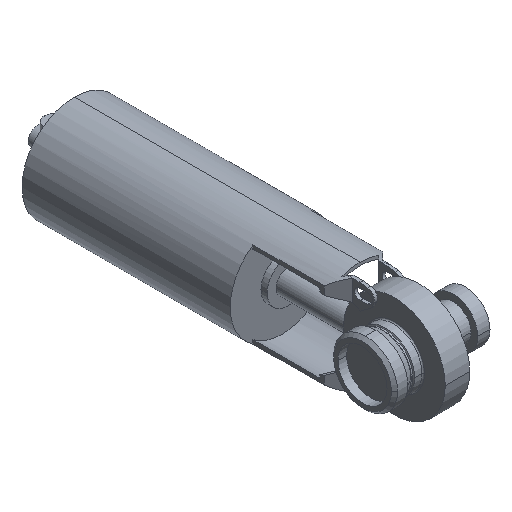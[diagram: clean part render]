
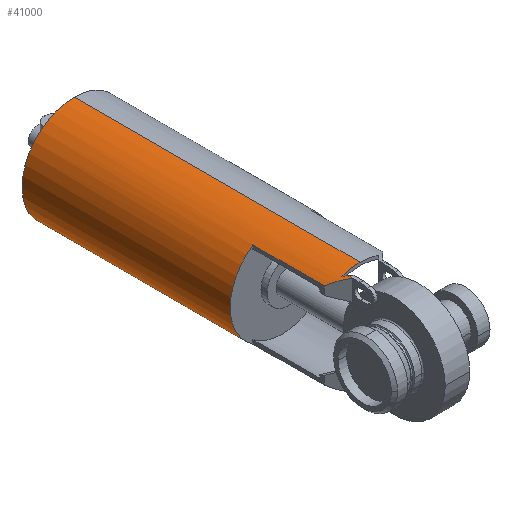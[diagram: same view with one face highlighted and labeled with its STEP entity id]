
A CAD part, isometric view. The second image highlights one B-rep face of the part: STEP entity #41000.
In plain terms, the highlighted cylindrical face has radius 42.5 mm (diameter 85 mm), a partial arc.
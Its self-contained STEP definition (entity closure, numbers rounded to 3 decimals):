
#16490=CARTESIAN_POINT('',(-105.082,-88.656,-42.5));
#16500=DIRECTION('',(0.,1.,0.));
#16510=VECTOR('',#16500,1.);
#16520=LINE('',#16490,#16510);
#16530=CARTESIAN_POINT('',(-105.082,-258.656,-42.5));
#16540=VERTEX_POINT('',#16530);
#16550=CARTESIAN_POINT('',(-105.082,-25.256,-42.5));
#16560=VERTEX_POINT('',#16550);
#16570=EDGE_CURVE('',#16540,#16560,#16520,.T.);
#16590=CARTESIAN_POINT('',(-105.082,-25.256,0.));
#16600=DIRECTION('',(0.,1.,0.));
#16610=DIRECTION('',(0.,0.,-1.));
#16620=AXIS2_PLACEMENT_3D('',#16590,#16600,#16610);
#16630=CIRCLE('',#16620,42.5);
#17020=CARTESIAN_POINT('',(-105.082,-88.656,0.));
#17030=DIRECTION('',(0.,1.,0.));
#17040=DIRECTION('',(0.,0.,1.));
#17050=AXIS2_PLACEMENT_3D('',#17020,#17030,#17040);
#17060=CIRCLE('',#17050,42.5);
#17460=CARTESIAN_POINT('',(-105.082,-25.256,0.));
#17470=DIRECTION('',(0.,1.,0.));
#17480=DIRECTION('',(0.,0.,1.));
#17490=AXIS2_PLACEMENT_3D('',#17460,#17470,#17480);
#17500=CIRCLE('',#17490,42.5);
#17510=CARTESIAN_POINT('',(-105.082,-25.256,42.5));
#17520=VERTEX_POINT('',#17510);
#17550=CARTESIAN_POINT('',(-105.082,-88.656,42.5));
#17560=DIRECTION('',(0.,1.,0.));
#17570=VECTOR('',#17560,1.);
#17580=LINE('',#17550,#17570);
#17590=CARTESIAN_POINT('',(-105.082,-258.656,42.5));
#17600=VERTEX_POINT('',#17590);
#17610=EDGE_CURVE('',#17600,#17520,#17580,.T.);
#17630=CARTESIAN_POINT('',(-105.082,-258.656,0.));
#17640=DIRECTION('',(0.,1.,0.));
#17650=DIRECTION('',(0.,0.,-1.));
#17660=AXIS2_PLACEMENT_3D('',#17630,#17640,#17650);
#17670=CIRCLE('',#17660,42.5);
#17780=EDGE_CURVE('',#17600,#16540,#17670,.T.);
#20620=CARTESIAN_POINT('',(-92.582,-19.163,
40.62));
#20630=VERTEX_POINT('',#20620);
#20660=CARTESIAN_POINT('',(-92.582,-285.518,
40.62));
#20670=DIRECTION('',(0.,1.,0.));
#20680=VECTOR('',#20670,1.);
#20690=LINE('',#20660,#20680);
#21530=CARTESIAN_POINT('',(-92.582,-22.699,
40.62));
#21540=VERTEX_POINT('',#21530);
#21570=CARTESIAN_POINT('',(-105.082,-10.199,0.));
#21580=DIRECTION('',(-0.707,-0.707,0.));
#21590=DIRECTION('',(0.707,-0.707,0.));
#21600=AXIS2_PLACEMENT_3D('',#21570,#21580,#21590);
#21610=ELLIPSE('',#21600,60.104,42.5);
#21620=CARTESIAN_POINT('',(-90.025,-25.256,
39.743));
#21630=VERTEX_POINT('',#21620);
#21640=EDGE_CURVE('',#21630,#21540,#21610,.T.);
#22440=EDGE_CURVE('',#21540,#20630,#20690,.T.);
#24030=CARTESIAN_POINT('',(-92.582,-12.708,
-40.62));
#24040=VERTEX_POINT('',#24030);
#24070=CARTESIAN_POINT('',(-92.582,-285.518,
-40.62));
#24080=DIRECTION('',(0.,1.,0.));
#24090=VECTOR('',#24080,1.);
#24100=LINE('',#24070,#24090);
#24110=CARTESIAN_POINT('',(-92.582,-19.163,
-40.62));
#24120=VERTEX_POINT('',#24110);
#24130=EDGE_CURVE('',#24120,#24040,#24100,.T.);
#25250=CARTESIAN_POINT('',(-94.435,-17.311,
-41.145));
#25260=VERTEX_POINT('',#25250);
#25330=CARTESIAN_POINT('',(-95.082,-16.663,
-41.307));
#25340=VERTEX_POINT('',#25330);
#25370=CARTESIAN_POINT('',(-105.082,-6.663,0.));
#25380=DIRECTION('',(0.707,0.707,0.));
#25390=DIRECTION('',(0.707,-0.707,0.));
#25400=AXIS2_PLACEMENT_3D('',#25370,#25380,#25390);
#25410=ELLIPSE('',#25400,60.104,42.5);
#25420=EDGE_CURVE('',#25260,#25340,#25410,.T.);
#25520=CARTESIAN_POINT('',(-105.082,343.811,0.));
#25530=DIRECTION('',(0.,0.113,-0.994));
#25540=DIRECTION('',(0.,-0.994,-0.113));
#25550=AXIS2_PLACEMENT_3D('',#25520,#25530,#25540);
#25560=ELLIPSE('',#25550,375.431,42.5);
#25570=EDGE_CURVE('',#24040,#25260,#25560,.T.);
#26740=CARTESIAN_POINT('',(-95.082,-20.199,
-41.307));
#26750=VERTEX_POINT('',#26740);
#26780=CARTESIAN_POINT('',(-95.082,-285.518,
-41.307));
#26790=DIRECTION('',(0.,1.,0.));
#26800=VECTOR('',#26790,1.);
#26810=LINE('',#26780,#26800);
#26820=EDGE_CURVE('',#26750,#25340,#26810,.T.);
#27920=CARTESIAN_POINT('',(-90.025,-25.256,
-39.743));
#27930=VERTEX_POINT('',#27920);
#27960=CARTESIAN_POINT('',(-105.082,-10.199,0.));
#27970=DIRECTION('',(-0.707,-0.707,0.));
#27980=DIRECTION('',(-0.707,0.707,0.));
#27990=AXIS2_PLACEMENT_3D('',#27960,#27970,#27980);
#28000=ELLIPSE('',#27990,60.104,42.5);
#28010=EDGE_CURVE('',#26750,#27930,#28000,.T.);
#28140=CARTESIAN_POINT('',(-81.082,-285.518,
-35.075));
#28150=DIRECTION('',(0.,1.,0.));
#28160=VECTOR('',#28150,1.);
#28170=LINE('',#28140,#28160);
#28180=CARTESIAN_POINT('',(-81.082,-88.656,
-35.075));
#28190=VERTEX_POINT('',#28180);
#28200=CARTESIAN_POINT('',(-81.082,-30.663,
-35.075));
#28210=VERTEX_POINT('',#28200);
#28220=EDGE_CURVE('',#28190,#28210,#28170,.T.);
#28900=CARTESIAN_POINT('',(-81.082,-88.656,
35.075));
#28910=VERTEX_POINT('',#28900);
#28920=EDGE_CURVE('',#28910,#28190,#17060,.T.);
#35480=EDGE_CURVE('',#27930,#16560,#16630,.T.);
#37830=EDGE_CURVE('',#17520,#21630,#17500,.T.);
#38170=CARTESIAN_POINT('',(-81.082,-30.663,
35.075));
#38180=VERTEX_POINT('',#38170);
#38380=CARTESIAN_POINT('',(-81.082,-285.518,
35.075));
#38390=DIRECTION('',(0.,1.,0.));
#38400=VECTOR('',#38390,1.);
#38410=LINE('',#38380,#38400);
#38420=EDGE_CURVE('',#28910,#38180,#38410,.T.);
#38670=CARTESIAN_POINT('',(-105.082,-6.663,0.));
#38680=DIRECTION('',(0.707,0.707,0.));
#38690=DIRECTION('',(-0.707,0.707,0.));
#38700=AXIS2_PLACEMENT_3D('',#38670,#38680,#38690);
#38710=ELLIPSE('',#38700,60.104,42.5);
#38720=EDGE_CURVE('',#20630,#38180,#38710,.T.);
#38910=CARTESIAN_POINT('',(-105.082,-6.663,0.));
#38920=DIRECTION('',(-0.707,-0.707,0.));
#38930=DIRECTION('',(-0.707,0.707,0.));
#38940=AXIS2_PLACEMENT_3D('',#38910,#38920,#38930);
#38950=ELLIPSE('',#38940,60.104,42.5);
#38960=EDGE_CURVE('',#24120,#28210,#38950,.T.);
#40760=CARTESIAN_POINT('',(-105.082,-88.656,0.));
#40770=DIRECTION('',(0.,1.,0.));
#40780=DIRECTION('',(0.,0.,-1.));
#40790=AXIS2_PLACEMENT_3D('',#40760,#40770,#40780);
#40800=CYLINDRICAL_SURFACE('',#40790,42.5);
#40810=ORIENTED_EDGE('',*,*,#21640,.F.);
#40820=ORIENTED_EDGE('',*,*,#22440,.F.);
#40830=ORIENTED_EDGE('',*,*,#38720,.F.);
#40840=ORIENTED_EDGE('',*,*,#38420,.T.);
#40850=ORIENTED_EDGE('',*,*,#28920,.F.);
#40860=ORIENTED_EDGE('',*,*,#28220,.F.);
#40870=ORIENTED_EDGE('',*,*,#38960,.T.);
#40880=ORIENTED_EDGE('',*,*,#24130,.F.);
#40890=ORIENTED_EDGE('',*,*,#25570,.F.);
#40900=ORIENTED_EDGE('',*,*,#25420,.F.);
#40910=ORIENTED_EDGE('',*,*,#26820,.T.);
#40920=ORIENTED_EDGE('',*,*,#28010,.F.);
#40930=ORIENTED_EDGE('',*,*,#35480,.F.);
#40940=ORIENTED_EDGE('',*,*,#16570,.T.);
#40950=ORIENTED_EDGE('',*,*,#17780,.T.);
#40960=ORIENTED_EDGE('',*,*,#17610,.F.);
#40970=ORIENTED_EDGE('',*,*,#37830,.F.);
#40980=EDGE_LOOP('',(#40970,#40960,#40950,#40940,#40930,#40920,#40910,
#40900,#40890,#40880,#40870,#40860,#40850,#40840,#40830,#40820,#40810));
#40990=FACE_OUTER_BOUND('',#40980,.T.);
#41000=ADVANCED_FACE('',(#40990),#40800,.T.);
